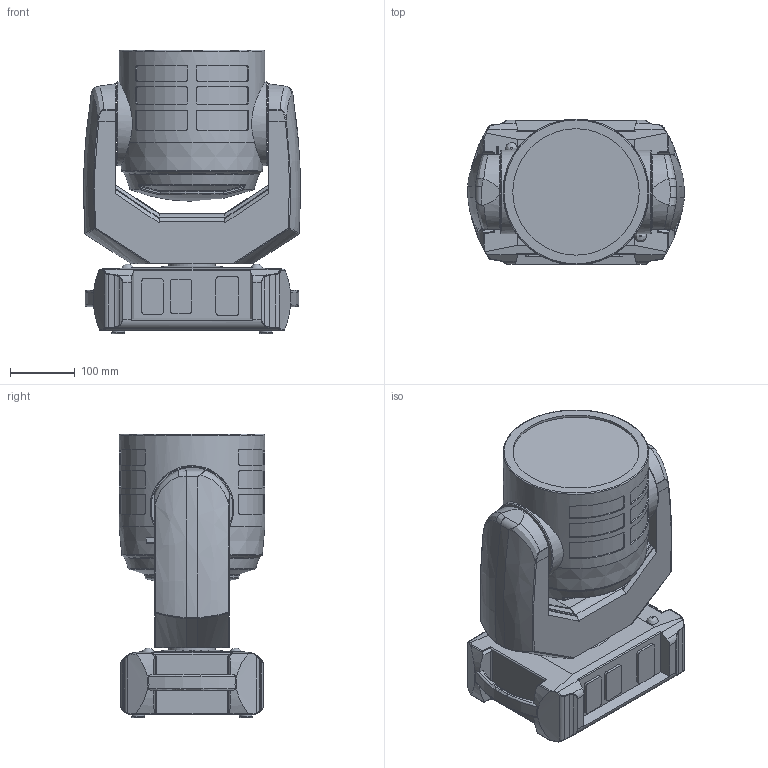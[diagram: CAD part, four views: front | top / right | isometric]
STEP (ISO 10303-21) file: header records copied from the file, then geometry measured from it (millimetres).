
FILE_DESCRIPTION(/* description */ ('Unknown'),/* implementation_level */ '2;1');
FILE_NAME(/* name */ '3D Robin Arianne 4',/* time_stamp */ '2026-08-05T13:08:42+02:00',/* author */ ('Unknown'),/* organization */ ('Unknown'),/* preprocessor_version */ 'ST-DEVELOPER v20',/* originating_system */ 'Solid Edge',/* authorisation */ 'Unknown');
FILE_SCHEMA (('AUTOMOTIVE_DESIGN {1 0 10303 214 3 1 1}'));
Length unit declared in the file: millimetre
Products named in the file (4): 3D Robin Arianne 4; Arianne 4_base; Arianne 4_arm; Arianne 4_head
Assembly tree (3 placements, depth 2):
  3D Robin Arianne 4
    Arianne 4_base
    Arianne 4_arm
    Arianne 4_head
Bounding box: 336.3 x 226 x 439.28 mm (x, y, z)
Volume: 18745811.2 mm3; surface area: 709817.2 mm2
Topology: 3 solids, 3 shells, 527 faces, 1368 edges, 864 vertices
Faces by surface type: plane 179, cylinder 179, bspline 109, torus 41, sphere 15, cone 4
Full cylindrical faces by diameter (mm): 19.895 x1, 20 x4, 44 x2, 50 x1, 72 x1, 130 x2, 196 x1, 226 x1
Entity records: 19618 total; most frequent: CARTESIAN_POINT 7510, ORIENTED_EDGE 2622, DIRECTION 2326, EDGE_CURVE 1311, AXIS2_PLACEMENT_3D 900, VERTEX_POINT 852, EDGE_LOOP 593, FACE_BOUND 593
